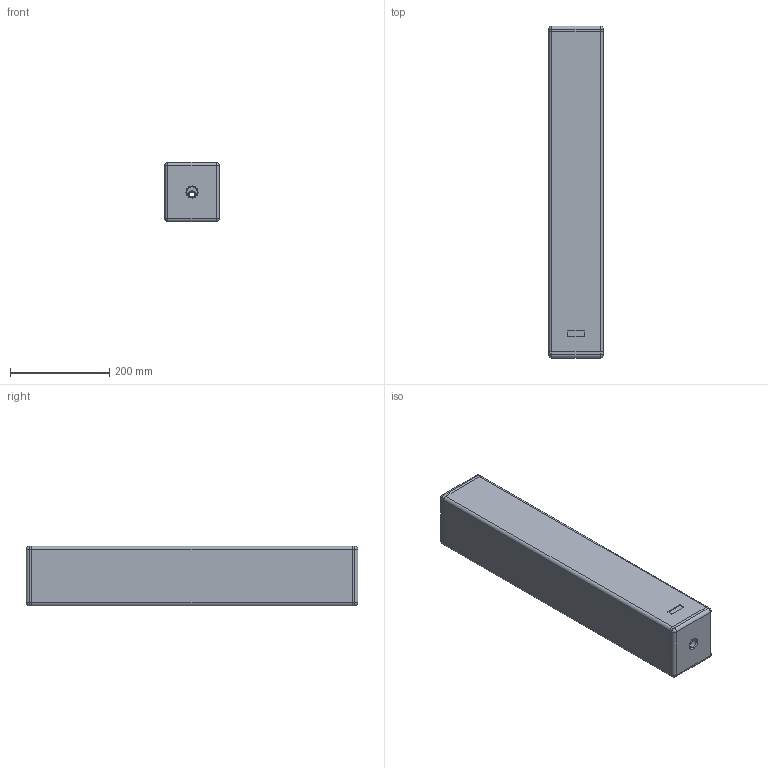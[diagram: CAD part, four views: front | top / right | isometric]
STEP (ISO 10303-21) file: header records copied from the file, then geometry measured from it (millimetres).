
FILE_DESCRIPTION (( 'STEP AP203' ), '1' );
FILE_NAME ('SEEBURG_Monopod-L8i.STEP', '2014-04-04T07:05:06', ( 'Michael Anter' ), ( 'SEEBURG acoustic line GmbH' ), 'SwSTEP 2.0', 'SolidWorks 2009', '' );
FILE_SCHEMA (( 'CONFIG_CONTROL_DESIGN' ));
Length unit declared in the file: millimetre
Products named in the file (3): SEEBURG_Monopod-L8i; Monopod_L8i-Design; Halterung f黵 Powerstick
Assembly tree (2 placements, depth 2):
  SEEBURG_Monopod-L8i
    Monopod_L8i-Design
    Halterung f黵 Powerstick
Bounding box: 110 x 670 x 120 mm (x, y, z)
Volume: 3169976.7 mm3; surface area: 575139.1 mm2
Topology: 7 solids, 7 shells, 109 faces, 258 edges, 156 vertices
Faces by surface type: plane 55, cylinder 38, cone 8, sphere 8
Entity records: 3363 total; most frequent: DIRECTION 562, CARTESIAN_POINT 520, ORIENTED_EDGE 500, EDGE_CURVE 250, AXIS2_PLACEMENT_3D 198, VECTOR 166, LINE 166, VERTEX_POINT 156
